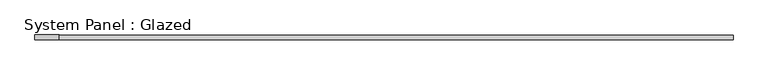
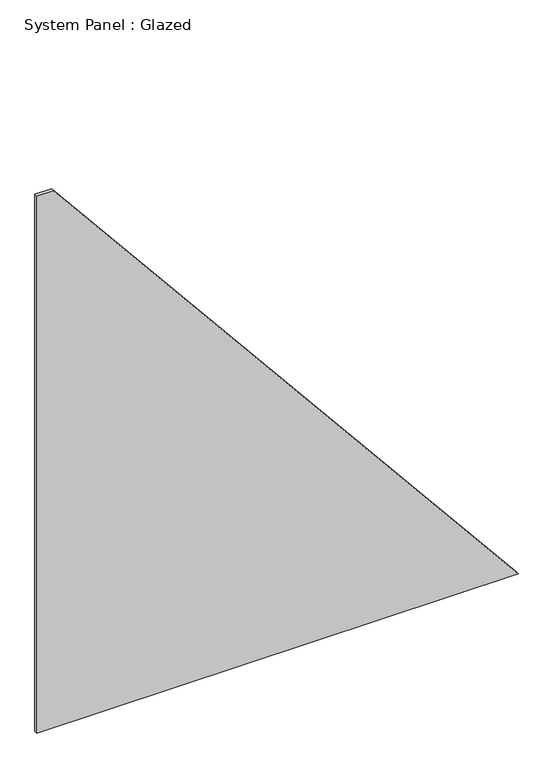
"""IFC4 building model written with IfcOpenShell, lengths in millimetres: plate geometry, System Panel : Glazed."""

from ifc_helpers import new_model, si_unit, frame, origin, place, context, project, spatial, polyline, outline, extrude, source, transform, mapped, element, save


def system_panel_glazed_629b5aa8(model_context):
    return source(origin(), model_context, "Body", "SweptSolid", [
        extrude(outline(polyline([(0.0, -727.4626518), (0.0, 727.4626518), (1714.0975405, -676.6438526), (1714.0975405, -727.4626518), (0.0, -727.4626518)])), frame((0.0, -5.0, 0.0), z_axis=(0.0, 1.0, 0.0), x_axis=(0.0, 0.0, 1.0)), (0.0, 0.0, 1.0), 10.0),
    ])


if __name__ == "__main__":
    model = new_model("IFC4")
    model_context = context("Model", 3, world=origin())
    ifc_project = project(units=[si_unit("LENGTHUNIT", "METRE", prefix="MILLI")], contexts=[model_context])
    site = spatial("IfcSite", under=ifc_project)
    building = spatial("IfcBuilding", under=site)
    placement = place(None, origin())
    system_panel_glazed_shape = system_panel_glazed_629b5aa8(model_context)
    element("IfcPlate", 1, ObjectType="System Panel : Glazed", at=placement, inside=building, context=model_context, shape_type="MappedRepresentation", body=[
        mapped(system_panel_glazed_shape, transform((0.0, 0.0, 0.0), x_axis=(1.0, 0.0, 0.0), y_axis=(0.0, 1.0, 0.0), z_axis=(0.0, 0.0, 1.0))),
    ])
    save(model, "model.ifc")
